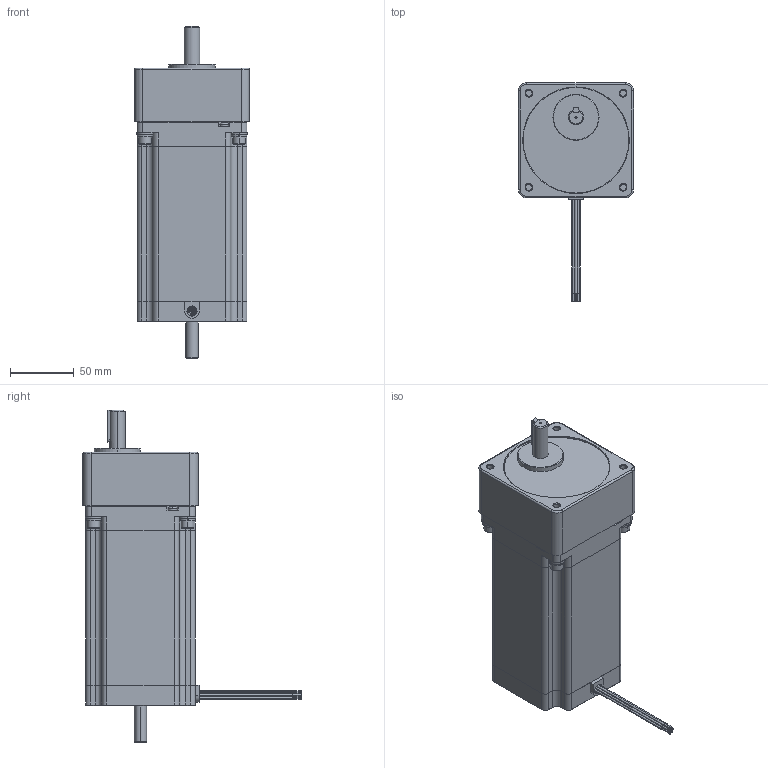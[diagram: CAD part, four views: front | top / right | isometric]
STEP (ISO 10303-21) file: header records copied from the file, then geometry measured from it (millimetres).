
FILE_DESCRIPTION (( 'STEP AP214' ), '1' );
FILE_NAME ('34YSG308D-LW8-R12.5.STEP', '2010-06-18T16:48:57', ( 'Tim Raines' ), ( 'Anaheim Automation' ), 'SwSTEP 2.0', 'SolidWorks 2010', '' );
FILE_SCHEMA (( 'AUTOMOTIVE_DESIGN' ));
Length unit declared in the file: millimetre
Products named in the file (6): 34YSG Motor_34YSG308D-LW8; Lock Washer Spring Regular_AI_Regular LW 0.25; 34SG Series_34SG1; Socket Head Cap Screw_AM_B18.3.1M - 6 x 1.0 x 20 Hex SHCS -- 20NHX; Flat Washer Narrow_AM_B18.22M - Plain washer, 6 mm, narrow; 34YSG308D-LW8-R12.5
Assembly tree (14 placements, depth 2):
  34YSG308D-LW8-R12.5
    Socket Head Cap Screw_AM_B18.3.1M - 6 x 1.0 x 20 Hex SHCS -- 20NHX  x4
    Lock Washer Spring Regular_AI_Regular LW 0.25  x4
    34SG Series_34SG1
    Flat Washer Narrow_AM_B18.22M - Plain washer, 6 mm, narrow  x4
    34YSG Motor_34YSG308D-LW8
Bounding box: 89.92 x 170.43 x 259.41 mm (x, y, z)
Volume: 1380285.7 mm3; surface area: 114913.9 mm2
Topology: 14 solids, 14 shells, 587 faces, 1391 edges, 862 vertices
Faces by surface type: plane 272, cylinder 194, cone 101, torus 20
Entity records: 18905 total; most frequent: CARTESIAN_POINT 2631, DIRECTION 2475, ORIENTED_EDGE 2262, EDGE_CURVE 1131, AXIS2_PLACEMENT_3D 919, VERTEX_POINT 715, LINE 637, VECTOR 637
